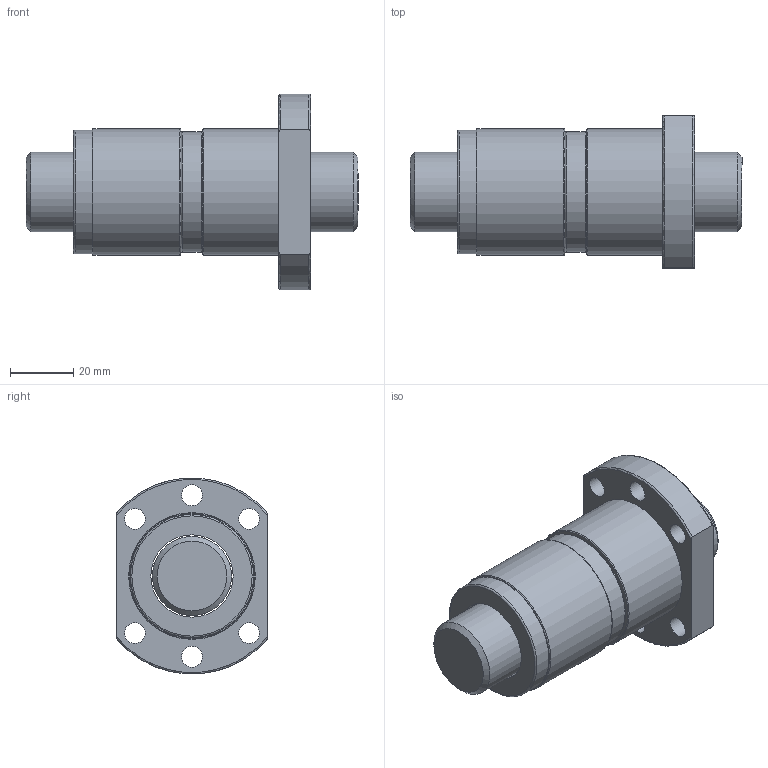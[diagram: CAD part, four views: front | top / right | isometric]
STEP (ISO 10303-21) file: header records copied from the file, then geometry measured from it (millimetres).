
FILE_DESCRIPTION(/* description */ (''),/* implementation_level */ '2;1');
FILE_NAME(/* name */ 'DFS2505',/* time_stamp */ '2007-10-26T13:36:03+08:00',/* author */ (''),/* organization */ (''),/* preprocessor_version */ 'ST-DEVELOPER v9',/* originating_system */ 'UGS - NX 3.0',/* authorisation */ '');
FILE_SCHEMA (('CONFIG_CONTROL_DESIGN'));
Length unit declared in the file: millimetre
Products named in the file (1): jaso15A4i324
Bounding box: 104.85 x 48 x 61.8 mm (x, y, z)
Volume: 115697.8 mm3; surface area: 36785.5 mm2
Topology: 6 solids, 6 shells, 49 faces, 96 edges, 61 vertices
Faces by surface type: cylinder 20, plane 16, torus 11, cone 2
Full cylindrical faces by diameter (mm): 6.6 x6, 25 x1, 26 x5, 38 x1, 39 x2, 40 x3
Entity records: 1384 total; most frequent: CARTESIAN_POINT 324, DIRECTION 214, ORIENTED_EDGE 138, AXIS2_PLACEMENT_3D 103, EDGE_LOOP 100, FACE_BOUND 76, EDGE_CURVE 69, VERTEX_POINT 61
